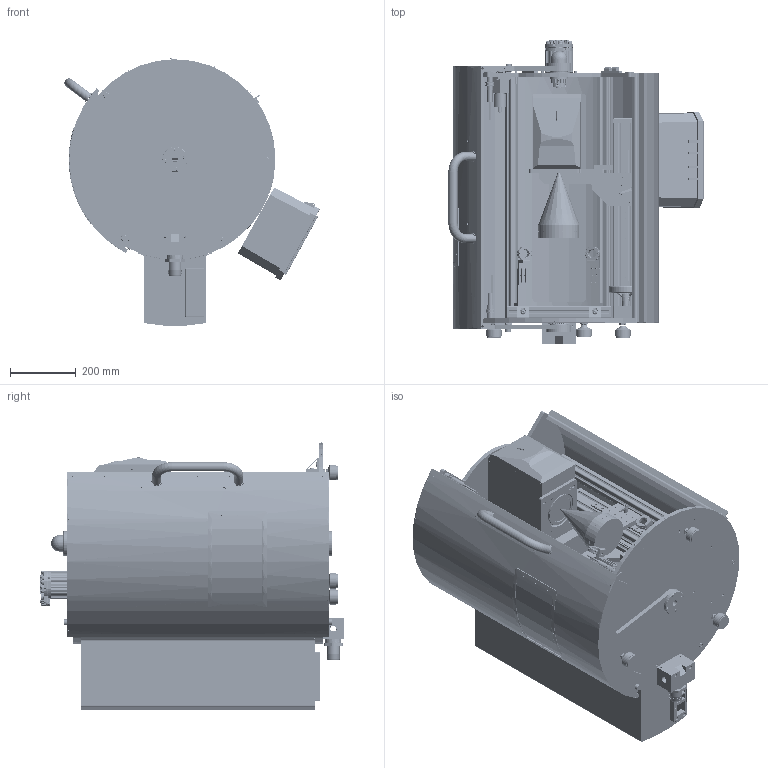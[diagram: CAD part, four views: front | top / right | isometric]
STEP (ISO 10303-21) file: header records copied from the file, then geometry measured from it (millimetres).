
FILE_DESCRIPTION (( 'STEP AP214' ), '1' );
FILE_NAME ('LE24-A001.STEP', '2016-08-24T22:56:07', ( '' ), ( '' ), 'SwSTEP 2.0', 'SolidWorks 2015', '' );
FILE_SCHEMA (( 'AUTOMOTIVE_DESIGN' ));
Length unit declared in the file: inch
Products named in the file (96): LE24-A001-012; LE24-A002-002; 13889-13836-B; 8020-2134 Sliding Door Configuration-$PARTNUMBER_Ball Latch; KHF-450_DＧaut; LE24-A001-011; LE24-A002-001_Length Type_Custom_Length [in]_14_; PRODUCT_NAME_4; 8491A206; 99R6; LE24-A001-010; PRODUCT_NAME_3; CNB-04; NUT-95075A106; LE24-A001-009; LE24-A001; PRODUCT_NAME_2; Undefined_8_2; WHW-120_WHW-120; SHCS M05_M5x0.8 x 012; LE24-A001-008; PRODUCT_NAME_1; Undefined_8; socket set screw cone point_ai_SSCONESKT 0.25-20x0.375-HX-N; SHCS M05_M5x0.8 x 020; LE24-A001-007; 8020-4332; CPM-MCVC- 3421S-RLN; socket head cap screw_ai_HX-SHCS 0.25-20x0.625x0.625-N; socket button head cap screw_am_B18.3.4M - 3 x 0.5 x 6 SBHCS --N; LE24-A001-006; MOD. A 6A 3-32H3712; 69905K177_SHAFT; SHCS M03_M3x0.5 x 012; DIN 127 - withdrawn A 5; LE24-A001-004_Default<As Machined>; LE24-A001-026; 69905K177_69905K422; SHCS M03_M3x0.5 x 008; SBHCS M08_M8x16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
Assembly tree (232 placements, depth 3):
  LE24-A001
    LE24-A002
      LE24-A002-001_Length Type_Custom_Length [in]_14_
      LE24-A002-002
      LE24-A002-003
      LE24-A002-004_LEFT SIDE
      LE24-A002-004
      LE24-A002-005
      LE24-A002-007
      LE24-A002-008
      LE24-A002-006
      SHCS M08_M8x1.25 x 020  x8
      SHCS M08_M8x1.25 x 040  x4
      SHCS M06_M6x1 x 016  x4
      SHCS M06_M6x1 x 010  x4
      SHCS M03_M3x0.5 x 008  x16
      SHCS M03_M3x0.5 x 012  x16
      socket head cap screw_ai_HX-SHCS 0.25-20x0.625x0.625-N  x2
      socket set screw cone point_ai_SSCONESKT 0.25-20x0.375-HX-N
      WHW-120_WHW-120
      NUT-95075A106
      99R6  x3
      KHF-450_DＧaut
      THRUST WASHER TRB-613  x2
      CTC-10
      LWLF18R200BS13_BEARING RAIL  x4
      MLFG18C1S1_BEARING BLOCK  x4
      THRUST BEARING NTA-613
      A 6A 3-20H3712_ALTER  x2
      3866-T-NUT
      A 6R 3-065037
    LE24-A001-001
    LE24-A001-002_Length Type_Custom_Length [in]_12_  x4
    LE24-A001-003
    LE24-A001-004_Default<As Machined>
    LE24-A001-006
    LE24-A001-007
    LE24-A001-008
    LE24-A001-009  x2
    LE24-A001-010
    LE24-A001-011
    LE24-A001-012  x2
    LE24-A001-013_RELIEVED
    LE24-A001-013_Length Type_Custom_Length [in]_10_
    LE24-A001-015  x2
    LE24-A001-016
    LE24-A001-017
    LE24-A001-019
    LE24-A001-022
    LE24-A001-023
    LE24-A001-024
    AL2280-A002-016
    LE24-A001-025  x2
    LE24-A001-026  x2
    MOD. A 6A 3-32H3712  x2
    8020-4332  x4
    13889-13836-B  x2
      PRODUCT_NAME_1
      PRODUCT_NAME_2
      PRODUCT_NAME_3
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Bounding box: 777.84 x 924.02 x 814.9 mm (x, y, z)
Volume: 35840421.7 mm3; surface area: 9736721.7 mm2
Topology: 291 solids, 357 shells, 13703 faces, 36375 edges, 23411 vertices
Faces by surface type: cylinder 4786, plane 4707, cone 1946, torus 1358, bspline 814, sphere 92
Entity records: 411891 total; most frequent: CARTESIAN_POINT 105744, DIRECTION 50458, ORIENTED_EDGE 48204, EDGE_CURVE 25742, AXIS2_PLACEMENT_3D 19884, VERTEX_POINT 16846, CIRCLE 11112, VECTOR 10690
